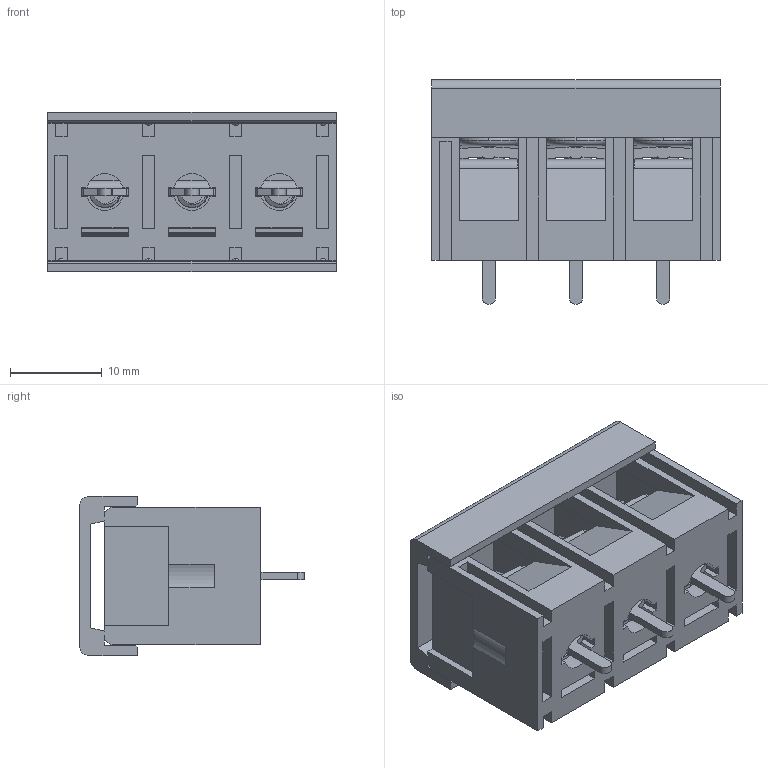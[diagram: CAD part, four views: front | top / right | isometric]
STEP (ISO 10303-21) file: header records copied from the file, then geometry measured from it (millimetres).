
FILE_DESCRIPTION((''),'2;1');
FILE_NAME('3PIN','2021-05-08T',('hanke'),(''),'CREO PARAMETRIC BY PTC INC, 2016260','CREO PARAMETRIC BY PTC INC, 2016260','');
FILE_SCHEMA(('CONFIG_CONTROL_DESIGN'));
Products named in the file (1): 3PIN
Bounding box: 31.5 x 24.5 x 17.35 mm (x, y, z)
Volume: 5528.5 mm3; surface area: 8601.3 mm2
Topology: 1 solids, 1 shells, 1145 faces, 3353 edges, 2188 vertices
Faces by surface type: plane 719, cylinder 286, bspline 92, torus 24, cone 24
Entity records: 51713 total; most frequent: CARTESIAN_POINT 22322, ORIENTED_EDGE 6694, DIRECTION 5430, EDGE_CURVE 3347, VERTEX_POINT 2188, VECTOR 2056, LINE 2056, AXIS2_PLACEMENT_3D 1687
